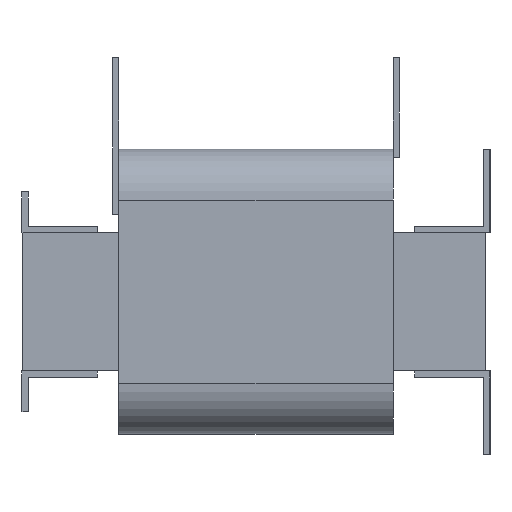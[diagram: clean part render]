
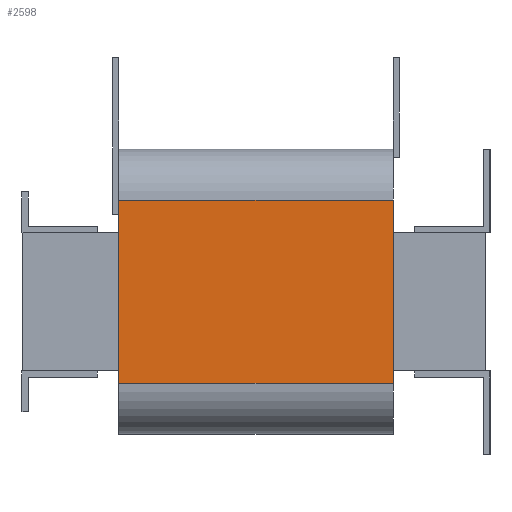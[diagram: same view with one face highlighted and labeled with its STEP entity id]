
A CAD part, left-side view. The second image highlights one B-rep face of the part: STEP entity #2598.
In plain terms, the highlighted planar face has unit normal (-1, 0, 0).
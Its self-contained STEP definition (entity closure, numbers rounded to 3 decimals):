
#102=PLANE('',#2804);
#231=FACE_OUTER_BOUND('',#381,.T.);
#381=EDGE_LOOP('',(#2166,#2167,#2168,#2169));
#630=LINE('',#4035,#948);
#649=LINE('',#4085,#967);
#650=LINE('',#4088,#968);
#651=LINE('',#4089,#969);
#948=VECTOR('',#3290,10.);
#967=VECTOR('',#3335,10.);
#968=VECTOR('',#3338,10.);
#969=VECTOR('',#3339,10.);
#1291=VERTEX_POINT('',#4032);
#1292=VERTEX_POINT('',#4034);
#1310=VERTEX_POINT('',#4083);
#1311=VERTEX_POINT('',#4087);
#1601=EDGE_CURVE('',#1291,#1292,#630,.T.);
#1627=EDGE_CURVE('',#1310,#1291,#649,.T.);
#1628=EDGE_CURVE('',#1310,#1311,#650,.T.);
#1629=EDGE_CURVE('',#1292,#1311,#651,.T.);
#2166=ORIENTED_EDGE('',*,*,#1627,.F.);
#2167=ORIENTED_EDGE('',*,*,#1628,.T.);
#2168=ORIENTED_EDGE('',*,*,#1629,.F.);
#2169=ORIENTED_EDGE('',*,*,#1601,.F.);
#2598=ADVANCED_FACE('',(#231),#102,.T.);
#2804=AXIS2_PLACEMENT_3D('',#4086,#3336,#3337);
#3290=DIRECTION('',(0.,0.,1.));
#3335=DIRECTION('',(0.,1.,0.));
#3336=DIRECTION('center_axis',(-1.,0.,0.));
#3337=DIRECTION('ref_axis',(0.,0.,1.));
#3338=DIRECTION('',(0.,0.,1.));
#3339=DIRECTION('',(0.,-1.,0.));
#4032=CARTESIAN_POINT('',(-166.,182.5,-40.));
#4034=CARTESIAN_POINT('',(-166.,182.5,50.));
#4035=CARTESIAN_POINT('',(-166.,182.5,-65.));
#4083=CARTESIAN_POINT('',(-166.,47.5,-40.));
#4085=CARTESIAN_POINT('',(-166.,47.5,-40.));
#4086=CARTESIAN_POINT('Origin',(-166.,47.5,-65.));
#4087=CARTESIAN_POINT('',(-166.,47.5,50.));
#4088=CARTESIAN_POINT('',(-166.,47.5,-65.));
#4089=CARTESIAN_POINT('',(-166.,47.5,50.));
